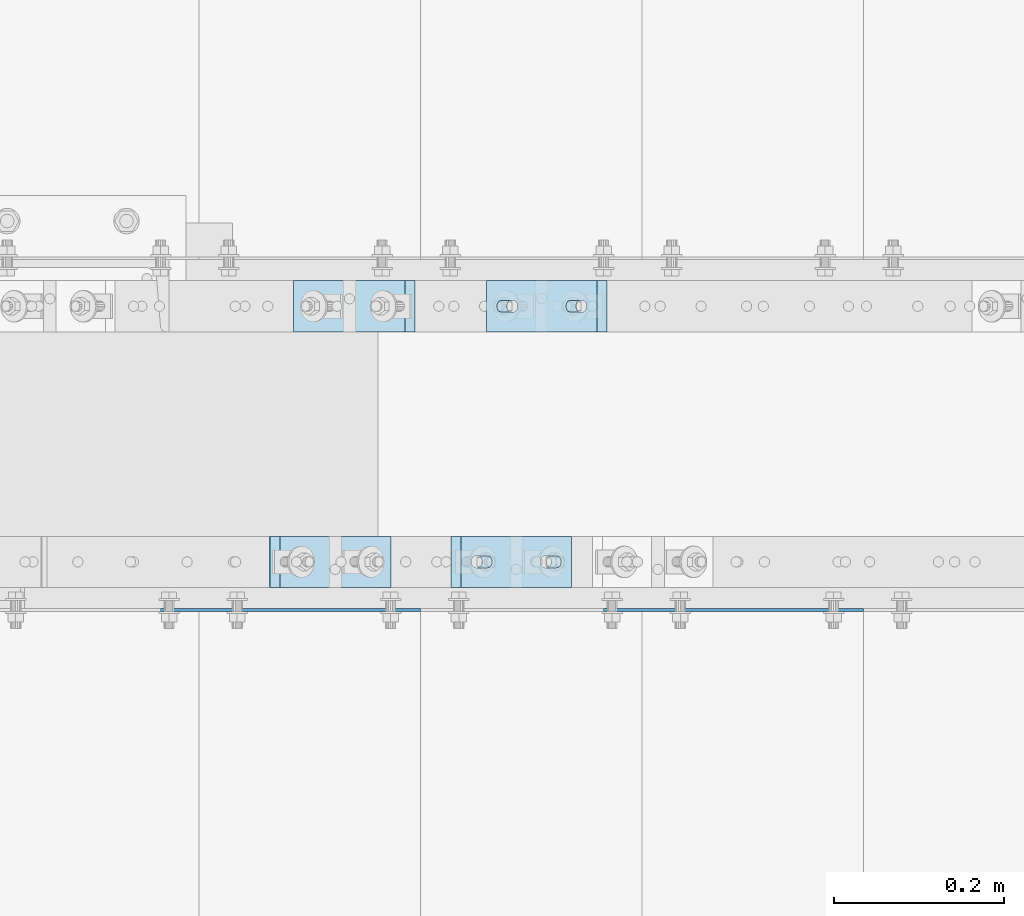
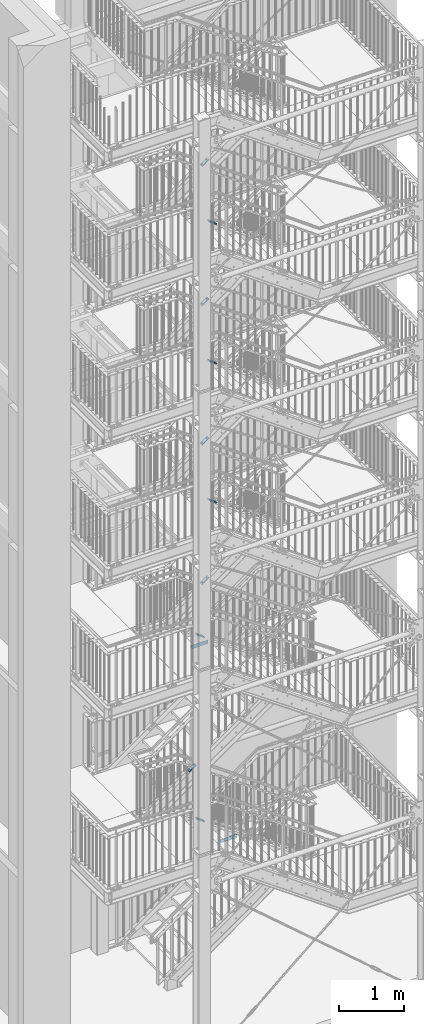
# One storey, part 175 of 831: 12 plates, 24 openings.
"""IFC2X3 building model written with IfcOpenShell, lengths in millimetres."""

from ifc_helpers import new_model, entity, si_unit, converted_unit, point, frame, frame_2d, origin, origin_with_axes, origin_2d_with_axis, place, context, project, spatial, polyline, circle_curve, line_curve, trimmed, segment, composite_curve, circle, outline, extrude, material, layer, layer_set, element, save


model = new_model("IFC2X3")

# Units and contexts
model_context = context("Model", 3, precision=1e-09, world=origin_with_axes())
ifc_project = project(units=[si_unit("LENGTHUNIT", "METRE", prefix="MILLI"), si_unit("AREAUNIT", "SQUARE_METRE"), si_unit("VOLUMEUNIT", "CUBIC_METRE"), converted_unit("PLANEANGLEUNIT", "DEGREE", entity("IfcPlaneAngleMeasure", 0.01745329), si_unit("PLANEANGLEUNIT", "RADIAN"), dimensions=[0, 0, 0, 0, 0, 0, 0])], contexts=[model_context])

# Site, building, storey
site_placement = place(None, origin_with_axes())
site = spatial("IfcSite", under=ifc_project, at=site_placement, Name="Site", CompositionType="ELEMENT")
building_placement = place(site_placement, origin_with_axes())
building = spatial("IfcBuilding", under=site, at=building_placement, Name="Struktur 1", CompositionType="ELEMENT")
storey_placement = place(building_placement, origin_with_axes())
storey = spatial("IfcBuildingStorey", under=building, at=storey_placement, Name="Default Storey", CompositionType="ELEMENT", Elevation=0.0)

# Plate, openings
ifc_material = material(Name="S235JR")
ifc_layer_1 = layer(ifc_material, 3.0)
ifc_layer_set_1 = layer_set([ifc_layer_1], Name="S235JR")
plate_1_placement = place(None, frame((6276.713402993, 5733.736971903, 3146.5789472), z_axis=(0.0, 1.0, 0.0), x_axis=(0.0, 0.0, -1.0)))
plate_1 = element("IfcPlate", 1, at=plate_1_placement, inside=storey, material=ifc_layer_set_1, Name="Grate_Step#31", ObjectType="Grate_Step#31", context=model_context, shape_type="SweptSolid", body=[
    extrude(outline(polyline([(0.0, 0.0), (70.0, 0.0), (70.0, 275.0), (40.0, 305.0), (0.0, 305.0), (0.0, 0.0)])), origin_with_axes(), (0.0, 0.0, 1.0), 3.0),
])
opening_1_placement = place(plate_1_placement, frame((55.0, 35.0, -0.5), z_axis=(0.0, 0.0, 1.0), x_axis=(0.0, 1.0, 0.0)))
element("IfcOpeningElement", 2, at=opening_1_placement, cuts=plate_1, ObjectType="Opening", context=model_context, shape_type="SweptSolid", body=[
    extrude(circle(Radius=7.001, at=origin_2d_with_axis()), origin(), (0.0, 0.0, 1.0), 4.0),
])
opening_2_placement = place(plate_1_placement, frame((55.0, 215.0, -0.5), z_axis=(0.0, 0.0, 1.0), x_axis=(0.0, 1.0, 0.0)))
element("IfcOpeningElement", 3, at=opening_2_placement, cuts=plate_1, ObjectType="Opening", context=model_context, shape_type="SweptSolid", body=[
    extrude(outline(composite_curve([segment(trimmed(line_curve((-9.5, -7.001), (1.0, 0.0), 19.0), [point((-9.5, -7.001))], [point((9.5, -7.001))], True, "CARTESIAN"), True, "CONTINUOUS"), segment(trimmed(circle_curve(frame_2d((9.5, 0.0), x_axis=(1.0, 0.0)), 7.001), [point((9.5, -7.001))], [point((9.5, 7.001))], True, "CARTESIAN"), True, "CONTINUOUS"), segment(trimmed(line_curve((9.5, 7.001), (-1.0, 0.0), 19.0), [point((9.5, 7.001))], [point((-9.5, 7.001))], True, "CARTESIAN"), True, "CONTINUOUS"), segment(trimmed(circle_curve(frame_2d((-9.5, 0.0), x_axis=(1.0, 0.0)), 7.001), [point((-9.5, 7.001))], [point((-9.5, -7.001))], True, "CARTESIAN"), True, "CONTINUOUS")], self_intersect=False)), origin(), (0.0, 0.0, 1.0), 4.0),
])

plate_2_placement = place(None, frame((5756.713402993, 5733.736971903, 6994.4210526), z_axis=(0.0, 1.0, 0.0), x_axis=(0.0, 0.0, -1.0)))
plate_2 = element("IfcPlate", 4, at=plate_2_placement, inside=storey, material=ifc_layer_set_1, Name="Grate_Step#45", ObjectType="Grate_Step#45", context=model_context, shape_type="SweptSolid", body=[
    extrude(outline(polyline([(0.0, 0.0), (70.0, 0.0), (70.0, 275.0), (40.0, 305.0), (0.0, 305.0), (0.0, 0.0)])), origin_with_axes(), (0.0, 0.0, 1.0), 3.0),
])
opening_3_placement = place(plate_2_placement, frame((55.0, 35.0, -0.5), z_axis=(0.0, 0.0, 1.0), x_axis=(0.0, 1.0, 0.0)))
element("IfcOpeningElement", 5, at=opening_3_placement, cuts=plate_2, ObjectType="Opening", context=model_context, shape_type="SweptSolid", body=[
    extrude(circle(Radius=7.001, at=origin_2d_with_axis()), origin(), (0.0, 0.0, 1.0), 4.0),
])
opening_4_placement = place(plate_2_placement, frame((55.0, 215.0, -0.5), z_axis=(0.0, 0.0, 1.0), x_axis=(0.0, 1.0, 0.0)))
element("IfcOpeningElement", 6, at=opening_4_placement, cuts=plate_2, ObjectType="Opening", context=model_context, shape_type="SweptSolid", body=[
    extrude(outline(composite_curve([segment(trimmed(line_curve((-9.5, -7.001), (1.0, 0.0), 19.0), [point((-9.5, -7.001))], [point((9.5, -7.001))], True, "CARTESIAN"), True, "CONTINUOUS"), segment(trimmed(circle_curve(frame_2d((9.5, 0.0), x_axis=(1.0, 0.0)), 7.001), [point((9.5, -7.001))], [point((9.5, 7.001))], True, "CARTESIAN"), True, "CONTINUOUS"), segment(trimmed(line_curve((9.5, 7.001), (-1.0, 0.0), 19.0), [point((9.5, 7.001))], [point((-9.5, 7.001))], True, "CARTESIAN"), True, "CONTINUOUS"), segment(trimmed(circle_curve(frame_2d((-9.5, 0.0), x_axis=(1.0, 0.0)), 7.001), [point((-9.5, 7.001))], [point((-9.5, -7.001))], True, "CARTESIAN"), True, "CONTINUOUS")], self_intersect=False)), origin(), (0.0, 0.0, 1.0), 4.0),
])

ifc_layer_2 = layer(ifc_material, 20.0)
ifc_layer_set_2 = layer_set([ifc_layer_2], Name="S235JR")
plate_3_placement = place(None, frame((5750.397948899, 6121.736971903, 4430.928426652), z_axis=(-0.575128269, 0.0, 0.818063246), x_axis=(-0.818063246, 0.0, -0.575128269)))
plate_3 = element("IfcPlate", 7, at=plate_3_placement, inside=storey, material=ifc_layer_set_2, Name="Plate#501", ObjectType="Plate#501", context=model_context, shape_type="SweptSolid", body=[
    extrude(outline(polyline([(0.0, 0.0), (160.0, 0.0), (160.0, 60.0), (0.0, 60.0), (0.0, 0.0)])), origin_with_axes(), (0.0, 0.0, 1.0), 20.0),
])
opening_5_placement = place(plate_3_placement, frame((38.0, 37.001, 20.5), z_axis=(0.0, 0.0, 1.0), x_axis=(-1.0, 0.0, 0.0)))
element("IfcOpeningElement", 8, at=opening_5_placement, cuts=plate_3, ObjectType="Opening", context=model_context, shape_type="SweptSolid", body=[
    extrude(outline(composite_curve([segment(trimmed(line_curve((0.0, 0.0), (1.0, 0.0), 16.0), [point((0.0, 0.0))], [point((16.0, 0.0))], True, "CARTESIAN"), True, "CONTINUOUS"), segment(trimmed(circle_curve(frame_2d((16.0, 7.001), x_axis=(1.0, 0.0)), 7.001), [point((16.0, 0.0))], [point((16.0, 14.002))], True, "CARTESIAN"), True, "CONTINUOUS"), segment(trimmed(line_curve((16.0, 14.002), (-1.0, 0.0), 16.0), [point((16.0, 14.002))], [point((0.0, 14.002))], True, "CARTESIAN"), True, "CONTINUOUS"), segment(trimmed(circle_curve(frame_2d((0.0, 7.001), x_axis=(1.0, 0.0)), 7.001), [point((0.0, 14.002))], [point((0.0, 0.0))], True, "CARTESIAN"), True, "CONTINUOUS")], self_intersect=False)), origin(), (0.0, 0.0, -1.0), 21.0),
])
opening_6_placement = place(plate_3_placement, frame((138.0, 37.001, 20.5), z_axis=(0.0, 0.0, 1.0), x_axis=(-1.0, 0.0, 0.0)))
element("IfcOpeningElement", 9, at=opening_6_placement, cuts=plate_3, ObjectType="Opening", context=model_context, shape_type="SweptSolid", body=[
    extrude(outline(composite_curve([segment(trimmed(line_curve((0.0, 0.0), (1.0, 0.0), 16.0), [point((0.0, 0.0))], [point((16.0, 0.0))], True, "CARTESIAN"), True, "CONTINUOUS"), segment(trimmed(circle_curve(frame_2d((16.0, 7.001), x_axis=(1.0, 0.0)), 7.001), [point((16.0, 0.0))], [point((16.0, 14.002))], True, "CARTESIAN"), True, "CONTINUOUS"), segment(trimmed(line_curve((16.0, 14.002), (-1.0, 0.0), 16.0), [point((16.0, 14.002))], [point((0.0, 14.002))], True, "CARTESIAN"), True, "CONTINUOUS"), segment(trimmed(circle_curve(frame_2d((0.0, 7.001), x_axis=(1.0, 0.0)), 7.001), [point((0.0, 14.002))], [point((0.0, 0.0))], True, "CARTESIAN"), True, "CONTINUOUS")], self_intersect=False)), origin(), (0.0, 0.0, -1.0), 21.0),
])

plate_4_placement = place(None, frame((5975.736519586, 6121.736971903, 7894.370561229), z_axis=(-0.585945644, 0.0, 0.810350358), x_axis=(-0.810350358, 0.0, -0.585945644)))
plate_4 = element("IfcPlate", 10, at=plate_4_placement, inside=storey, material=ifc_layer_set_2, Name="Plate#501", ObjectType="Plate#501", context=model_context, shape_type="SweptSolid", body=[
    extrude(outline(polyline([(0.0, 0.0), (160.0, 0.0), (160.0, 60.0), (0.0, 60.0), (0.0, 0.0)])), origin_with_axes(), (0.0, 0.0, 1.0), 20.0),
])
opening_7_placement = place(plate_4_placement, frame((38.0, 37.001, 20.5), z_axis=(0.0, 0.0, 1.0), x_axis=(-1.0, 0.0, 0.0)))
element("IfcOpeningElement", 11, at=opening_7_placement, cuts=plate_4, ObjectType="Opening", context=model_context, shape_type="SweptSolid", body=[
    extrude(outline(composite_curve([segment(trimmed(line_curve((0.0, 0.0), (1.0, 0.0), 16.0), [point((0.0, 0.0))], [point((16.0, 0.0))], True, "CARTESIAN"), True, "CONTINUOUS"), segment(trimmed(circle_curve(frame_2d((16.0, 7.001), x_axis=(1.0, 0.0)), 7.001), [point((16.0, 0.0))], [point((16.0, 14.002))], True, "CARTESIAN"), True, "CONTINUOUS"), segment(trimmed(line_curve((16.0, 14.002), (-1.0, 0.0), 16.0), [point((16.0, 14.002))], [point((0.0, 14.002))], True, "CARTESIAN"), True, "CONTINUOUS"), segment(trimmed(circle_curve(frame_2d((0.0, 7.001), x_axis=(1.0, 0.0)), 7.001), [point((0.0, 14.002))], [point((0.0, 0.0))], True, "CARTESIAN"), True, "CONTINUOUS")], self_intersect=False)), origin(), (0.0, 0.0, -1.0), 21.0),
])
opening_8_placement = place(plate_4_placement, frame((138.0, 37.001, 20.5), z_axis=(0.0, 0.0, 1.0), x_axis=(-1.0, 0.0, 0.0)))
element("IfcOpeningElement", 12, at=opening_8_placement, cuts=plate_4, ObjectType="Opening", context=model_context, shape_type="SweptSolid", body=[
    extrude(outline(composite_curve([segment(trimmed(line_curve((0.0, 0.0), (1.0, 0.0), 16.0), [point((0.0, 0.0))], [point((16.0, 0.0))], True, "CARTESIAN"), True, "CONTINUOUS"), segment(trimmed(circle_curve(frame_2d((16.0, 7.001), x_axis=(1.0, 0.0)), 7.001), [point((16.0, 0.0))], [point((16.0, 14.002))], True, "CARTESIAN"), True, "CONTINUOUS"), segment(trimmed(line_curve((16.0, 14.002), (-1.0, 0.0), 16.0), [point((16.0, 14.002))], [point((0.0, 14.002))], True, "CARTESIAN"), True, "CONTINUOUS"), segment(trimmed(circle_curve(frame_2d((0.0, 7.001), x_axis=(1.0, 0.0)), 7.001), [point((0.0, 14.002))], [point((0.0, 0.0))], True, "CARTESIAN"), True, "CONTINUOUS")], self_intersect=False)), origin(), (0.0, 0.0, -1.0), 21.0),
])

plate_5_placement = place(None, frame((5975.781539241, 6121.736971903, 10525.387910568), z_axis=(-0.585213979, 0.0, 0.810878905), x_axis=(-0.810878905, 0.0, -0.585213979)))
plate_5 = element("IfcPlate", 13, at=plate_5_placement, inside=storey, material=ifc_layer_set_2, Name="Plate#501", ObjectType="Plate#501", context=model_context, shape_type="SweptSolid", body=[
    extrude(outline(polyline([(0.0, 0.0), (160.0, 0.0), (160.0, 60.0), (0.0, 60.0), (0.0, 0.0)])), origin_with_axes(), (0.0, 0.0, 1.0), 20.0),
])
opening_9_placement = place(plate_5_placement, frame((38.0, 37.001, 20.5), z_axis=(0.0, 0.0, 1.0), x_axis=(-1.0, 0.0, 0.0)))
element("IfcOpeningElement", 14, at=opening_9_placement, cuts=plate_5, ObjectType="Opening", context=model_context, shape_type="SweptSolid", body=[
    extrude(outline(composite_curve([segment(trimmed(line_curve((0.0, 0.0), (1.0, 0.0), 16.0), [point((0.0, 0.0))], [point((16.0, 0.0))], True, "CARTESIAN"), True, "CONTINUOUS"), segment(trimmed(circle_curve(frame_2d((16.0, 7.001), x_axis=(1.0, 0.0)), 7.001), [point((16.0, 0.0))], [point((16.0, 14.002))], True, "CARTESIAN"), True, "CONTINUOUS"), segment(trimmed(line_curve((16.0, 14.002), (-1.0, 0.0), 16.0), [point((16.0, 14.002))], [point((0.0, 14.002))], True, "CARTESIAN"), True, "CONTINUOUS"), segment(trimmed(circle_curve(frame_2d((0.0, 7.001), x_axis=(1.0, 0.0)), 7.001), [point((0.0, 14.002))], [point((0.0, 0.0))], True, "CARTESIAN"), True, "CONTINUOUS")], self_intersect=False)), origin(), (0.0, 0.0, -1.0), 21.0),
])
opening_10_placement = place(plate_5_placement, frame((138.0, 37.001, 20.5), z_axis=(0.0, 0.0, 1.0), x_axis=(-1.0, 0.0, 0.0)))
element("IfcOpeningElement", 15, at=opening_10_placement, cuts=plate_5, ObjectType="Opening", context=model_context, shape_type="SweptSolid", body=[
    extrude(outline(composite_curve([segment(trimmed(line_curve((0.0, 0.0), (1.0, 0.0), 16.0), [point((0.0, 0.0))], [point((16.0, 0.0))], True, "CARTESIAN"), True, "CONTINUOUS"), segment(trimmed(circle_curve(frame_2d((16.0, 7.001), x_axis=(1.0, 0.0)), 7.001), [point((16.0, 0.0))], [point((16.0, 14.002))], True, "CARTESIAN"), True, "CONTINUOUS"), segment(trimmed(line_curve((16.0, 14.002), (-1.0, 0.0), 16.0), [point((16.0, 14.002))], [point((0.0, 14.002))], True, "CARTESIAN"), True, "CONTINUOUS"), segment(trimmed(circle_curve(frame_2d((0.0, 7.001), x_axis=(1.0, 0.0)), 7.001), [point((0.0, 14.002))], [point((0.0, 0.0))], True, "CARTESIAN"), True, "CONTINUOUS")], self_intersect=False)), origin(), (0.0, 0.0, -1.0), 21.0),
])

plate_6_placement = place(None, frame((5975.709509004, 6121.736971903, 13153.960093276), z_axis=(-0.586383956, 0.0, 0.810033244), x_axis=(-0.810033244, 0.0, -0.586383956)))
plate_6 = element("IfcPlate", 16, at=plate_6_placement, inside=storey, material=ifc_layer_set_2, Name="Plate#501", ObjectType="Plate#501", context=model_context, shape_type="SweptSolid", body=[
    extrude(outline(polyline([(0.0, 0.0), (160.0, 0.0), (160.0, 60.0), (0.0, 60.0), (0.0, 0.0)])), origin_with_axes(), (0.0, 0.0, 1.0), 20.0),
])
opening_11_placement = place(plate_6_placement, frame((38.0, 37.001, 20.5), z_axis=(0.0, 0.0, 1.0), x_axis=(-1.0, 0.0, 0.0)))
element("IfcOpeningElement", 17, at=opening_11_placement, cuts=plate_6, ObjectType="Opening", context=model_context, shape_type="SweptSolid", body=[
    extrude(outline(composite_curve([segment(trimmed(line_curve((0.0, 0.0), (1.0, 0.0), 16.0), [point((0.0, 0.0))], [point((16.0, 0.0))], True, "CARTESIAN"), True, "CONTINUOUS"), segment(trimmed(circle_curve(frame_2d((16.0, 7.001), x_axis=(1.0, 0.0)), 7.001), [point((16.0, 0.0))], [point((16.0, 14.002))], True, "CARTESIAN"), True, "CONTINUOUS"), segment(trimmed(line_curve((16.0, 14.002), (-1.0, 0.0), 16.0), [point((16.0, 14.002))], [point((0.0, 14.002))], True, "CARTESIAN"), True, "CONTINUOUS"), segment(trimmed(circle_curve(frame_2d((0.0, 7.001), x_axis=(1.0, 0.0)), 7.001), [point((0.0, 14.002))], [point((0.0, 0.0))], True, "CARTESIAN"), True, "CONTINUOUS")], self_intersect=False)), origin(), (0.0, 0.0, -1.0), 21.0),
])
opening_12_placement = place(plate_6_placement, frame((138.0, 37.001, 20.5), z_axis=(0.0, 0.0, 1.0), x_axis=(-1.0, 0.0, 0.0)))
element("IfcOpeningElement", 18, at=opening_12_placement, cuts=plate_6, ObjectType="Opening", context=model_context, shape_type="SweptSolid", body=[
    extrude(outline(composite_curve([segment(trimmed(line_curve((0.0, 0.0), (1.0, 0.0), 16.0), [point((0.0, 0.0))], [point((16.0, 0.0))], True, "CARTESIAN"), True, "CONTINUOUS"), segment(trimmed(circle_curve(frame_2d((16.0, 7.001), x_axis=(1.0, 0.0)), 7.001), [point((16.0, 0.0))], [point((16.0, 14.002))], True, "CARTESIAN"), True, "CONTINUOUS"), segment(trimmed(line_curve((16.0, 14.002), (-1.0, 0.0), 16.0), [point((16.0, 14.002))], [point((0.0, 14.002))], True, "CARTESIAN"), True, "CONTINUOUS"), segment(trimmed(circle_curve(frame_2d((0.0, 7.001), x_axis=(1.0, 0.0)), 7.001), [point((0.0, 14.002))], [point((0.0, 0.0))], True, "CARTESIAN"), True, "CONTINUOUS")], self_intersect=False)), origin(), (0.0, 0.0, -1.0), 21.0),
])

plate_7_placement = place(None, frame((5975.844570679, 6121.736971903, 15786.011994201), z_axis=(-0.584187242, 0.0, 0.811618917), x_axis=(-0.811618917, 0.0, -0.584187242)))
plate_7 = element("IfcPlate", 19, at=plate_7_placement, inside=storey, material=ifc_layer_set_2, Name="Plate#501", ObjectType="Plate#501", context=model_context, shape_type="SweptSolid", body=[
    extrude(outline(polyline([(0.0, 0.0), (160.0, 0.0), (160.0, 60.0), (0.0, 60.0), (0.0, 0.0)])), origin_with_axes(), (0.0, 0.0, 1.0), 20.0),
])
opening_13_placement = place(plate_7_placement, frame((38.0, 37.001, 20.5), z_axis=(0.0, 0.0, 1.0), x_axis=(-1.0, 0.0, 0.0)))
element("IfcOpeningElement", 20, at=opening_13_placement, cuts=plate_7, ObjectType="Opening", context=model_context, shape_type="SweptSolid", body=[
    extrude(outline(composite_curve([segment(trimmed(line_curve((0.0, 0.0), (1.0, 0.0), 16.0), [point((0.0, 0.0))], [point((16.0, 0.0))], True, "CARTESIAN"), True, "CONTINUOUS"), segment(trimmed(circle_curve(frame_2d((16.0, 7.001), x_axis=(1.0, 0.0)), 7.001), [point((16.0, 0.0))], [point((16.0, 14.002))], True, "CARTESIAN"), True, "CONTINUOUS"), segment(trimmed(line_curve((16.0, 14.002), (-1.0, 0.0), 16.0), [point((16.0, 14.002))], [point((0.0, 14.002))], True, "CARTESIAN"), True, "CONTINUOUS"), segment(trimmed(circle_curve(frame_2d((0.0, 7.001), x_axis=(1.0, 0.0)), 7.001), [point((0.0, 14.002))], [point((0.0, 0.0))], True, "CARTESIAN"), True, "CONTINUOUS")], self_intersect=False)), origin(), (0.0, 0.0, -1.0), 21.0),
])
opening_14_placement = place(plate_7_placement, frame((138.0, 37.001, 20.5), z_axis=(0.0, 0.0, 1.0), x_axis=(-1.0, 0.0, 0.0)))
element("IfcOpeningElement", 21, at=opening_14_placement, cuts=plate_7, ObjectType="Opening", context=model_context, shape_type="SweptSolid", body=[
    extrude(outline(composite_curve([segment(trimmed(line_curve((0.0, 0.0), (1.0, 0.0), 16.0), [point((0.0, 0.0))], [point((16.0, 0.0))], True, "CARTESIAN"), True, "CONTINUOUS"), segment(trimmed(circle_curve(frame_2d((16.0, 7.001), x_axis=(1.0, 0.0)), 7.001), [point((16.0, 0.0))], [point((16.0, 14.002))], True, "CARTESIAN"), True, "CONTINUOUS"), segment(trimmed(line_curve((16.0, 14.002), (-1.0, 0.0), 16.0), [point((16.0, 14.002))], [point((0.0, 14.002))], True, "CARTESIAN"), True, "CONTINUOUS"), segment(trimmed(circle_curve(frame_2d((0.0, 7.001), x_axis=(1.0, 0.0)), 7.001), [point((0.0, 14.002))], [point((0.0, 0.0))], True, "CARTESIAN"), True, "CONTINUOUS")], self_intersect=False)), origin(), (0.0, 0.0, -1.0), 21.0),
])

plate_8_placement = place(None, frame((5580.039038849, 5761.736971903, 3642.571606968), z_axis=(0.579973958, 0.0, 0.814635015), x_axis=(0.814635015, 0.0, -0.579973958)))
plate_8 = element("IfcPlate", 22, at=plate_8_placement, inside=storey, material=ifc_layer_set_2, Name="Plate#502", ObjectType="Plate#502", context=model_context, shape_type="SweptSolid", body=[
    extrude(outline(polyline([(0.0, 0.0), (160.0, 0.0), (160.0, 60.0), (0.0, 60.0), (0.0, 0.0)])), origin_with_axes(), (0.0, 0.0, 1.0), 20.0),
])
opening_15_placement = place(plate_8_placement, frame((38.0, 37.001, 20.5), z_axis=(0.0, 0.0, 1.0), x_axis=(-1.0, 0.0, 0.0)))
element("IfcOpeningElement", 23, at=opening_15_placement, cuts=plate_8, ObjectType="Opening", context=model_context, shape_type="SweptSolid", body=[
    extrude(outline(composite_curve([segment(trimmed(line_curve((0.0, 0.0), (1.0, 0.0), 16.0), [point((0.0, 0.0))], [point((16.0, 0.0))], True, "CARTESIAN"), True, "CONTINUOUS"), segment(trimmed(circle_curve(frame_2d((16.0, 7.001), x_axis=(1.0, 0.0)), 7.001), [point((16.0, 0.0))], [point((16.0, 14.002))], True, "CARTESIAN"), True, "CONTINUOUS"), segment(trimmed(line_curve((16.0, 14.002), (-1.0, 0.0), 16.0), [point((16.0, 14.002))], [point((0.0, 14.002))], True, "CARTESIAN"), True, "CONTINUOUS"), segment(trimmed(circle_curve(frame_2d((0.0, 7.001), x_axis=(1.0, 0.0)), 7.001), [point((0.0, 14.002))], [point((0.0, 0.0))], True, "CARTESIAN"), True, "CONTINUOUS")], self_intersect=False)), origin(), (0.0, 0.0, -1.0), 21.0),
])
opening_16_placement = place(plate_8_placement, frame((138.0, 37.001, 20.5), z_axis=(0.0, 0.0, 1.0), x_axis=(-1.0, 0.0, 0.0)))
element("IfcOpeningElement", 24, at=opening_16_placement, cuts=plate_8, ObjectType="Opening", context=model_context, shape_type="SweptSolid", body=[
    extrude(outline(composite_curve([segment(trimmed(line_curve((0.0, 0.0), (1.0, 0.0), 16.0), [point((0.0, 0.0))], [point((16.0, 0.0))], True, "CARTESIAN"), True, "CONTINUOUS"), segment(trimmed(circle_curve(frame_2d((16.0, 7.001), x_axis=(1.0, 0.0)), 7.001), [point((16.0, 0.0))], [point((16.0, 14.002))], True, "CARTESIAN"), True, "CONTINUOUS"), segment(trimmed(line_curve((16.0, 14.002), (-1.0, 0.0), 16.0), [point((16.0, 14.002))], [point((0.0, 14.002))], True, "CARTESIAN"), True, "CONTINUOUS"), segment(trimmed(circle_curve(frame_2d((0.0, 7.001), x_axis=(1.0, 0.0)), 7.001), [point((0.0, 14.002))], [point((0.0, 0.0))], True, "CARTESIAN"), True, "CONTINUOUS")], self_intersect=False)), origin(), (0.0, 0.0, -1.0), 21.0),
])

plate_9_placement = place(None, frame((5579.69602376, 5761.736971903, 7118.870720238), z_axis=(0.57512827, 0.0, 0.818063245), x_axis=(0.818063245, 0.0, -0.57512827)))
plate_9 = element("IfcPlate", 25, at=plate_9_placement, inside=storey, material=ifc_layer_set_2, Name="Plate#502", ObjectType="Plate#502", context=model_context, shape_type="SweptSolid", body=[
    extrude(outline(polyline([(0.0, 0.0), (160.0, 0.0), (160.0, 60.0), (0.0, 60.0), (0.0, 0.0)])), origin_with_axes(), (0.0, 0.0, 1.0), 20.0),
])
opening_17_placement = place(plate_9_placement, frame((38.0, 37.001, 20.5), z_axis=(0.0, 0.0, 1.0), x_axis=(-1.0, 0.0, 0.0)))
element("IfcOpeningElement", 26, at=opening_17_placement, cuts=plate_9, ObjectType="Opening", context=model_context, shape_type="SweptSolid", body=[
    extrude(outline(composite_curve([segment(trimmed(line_curve((0.0, 0.0), (1.0, 0.0), 16.0), [point((0.0, 0.0))], [point((16.0, 0.0))], True, "CARTESIAN"), True, "CONTINUOUS"), segment(trimmed(circle_curve(frame_2d((16.0, 7.001), x_axis=(1.0, 0.0)), 7.001), [point((16.0, 0.0))], [point((16.0, 14.002))], True, "CARTESIAN"), True, "CONTINUOUS"), segment(trimmed(line_curve((16.0, 14.002), (-1.0, 0.0), 16.0), [point((16.0, 14.002))], [point((0.0, 14.002))], True, "CARTESIAN"), True, "CONTINUOUS"), segment(trimmed(circle_curve(frame_2d((0.0, 7.001), x_axis=(1.0, 0.0)), 7.001), [point((0.0, 14.002))], [point((0.0, 0.0))], True, "CARTESIAN"), True, "CONTINUOUS")], self_intersect=False)), origin(), (0.0, 0.0, -1.0), 21.0),
])
opening_18_placement = place(plate_9_placement, frame((138.0, 37.001, 20.5), z_axis=(0.0, 0.0, 1.0), x_axis=(-1.0, 0.0, 0.0)))
element("IfcOpeningElement", 27, at=opening_18_placement, cuts=plate_9, ObjectType="Opening", context=model_context, shape_type="SweptSolid", body=[
    extrude(outline(composite_curve([segment(trimmed(line_curve((0.0, 0.0), (1.0, 0.0), 16.0), [point((0.0, 0.0))], [point((16.0, 0.0))], True, "CARTESIAN"), True, "CONTINUOUS"), segment(trimmed(circle_curve(frame_2d((16.0, 7.001), x_axis=(1.0, 0.0)), 7.001), [point((16.0, 0.0))], [point((16.0, 14.002))], True, "CARTESIAN"), True, "CONTINUOUS"), segment(trimmed(line_curve((16.0, 14.002), (-1.0, 0.0), 16.0), [point((16.0, 14.002))], [point((0.0, 14.002))], True, "CARTESIAN"), True, "CONTINUOUS"), segment(trimmed(circle_curve(frame_2d((0.0, 7.001), x_axis=(1.0, 0.0)), 7.001), [point((0.0, 14.002))], [point((0.0, 0.0))], True, "CARTESIAN"), True, "CONTINUOUS")], self_intersect=False)), origin(), (0.0, 0.0, -1.0), 21.0),
])

plate_10_placement = place(None, frame((5792.6912864, 5761.736971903, 9589.985222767), z_axis=(0.585945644, 0.0, 0.810350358), x_axis=(0.810350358, 0.0, -0.585945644)))
plate_10 = element("IfcPlate", 28, at=plate_10_placement, inside=storey, material=ifc_layer_set_2, Name="Plate#501", ObjectType="Plate#501", context=model_context, shape_type="SweptSolid", body=[
    extrude(outline(polyline([(0.0, 0.0), (160.0, 0.0), (160.0, 60.0), (0.0, 60.0), (0.0, 0.0)])), origin_with_axes(), (0.0, 0.0, 1.0), 20.0),
])
opening_19_placement = place(plate_10_placement, frame((38.0, 37.001, 20.5), z_axis=(0.0, 0.0, 1.0), x_axis=(-1.0, 0.0, 0.0)))
element("IfcOpeningElement", 29, at=opening_19_placement, cuts=plate_10, ObjectType="Opening", context=model_context, shape_type="SweptSolid", body=[
    extrude(outline(composite_curve([segment(trimmed(line_curve((0.0, 0.0), (1.0, 0.0), 16.0), [point((0.0, 0.0))], [point((16.0, 0.0))], True, "CARTESIAN"), True, "CONTINUOUS"), segment(trimmed(circle_curve(frame_2d((16.0, 7.001), x_axis=(1.0, 0.0)), 7.001), [point((16.0, 0.0))], [point((16.0, 14.002))], True, "CARTESIAN"), True, "CONTINUOUS"), segment(trimmed(line_curve((16.0, 14.002), (-1.0, 0.0), 16.0), [point((16.0, 14.002))], [point((0.0, 14.002))], True, "CARTESIAN"), True, "CONTINUOUS"), segment(trimmed(circle_curve(frame_2d((0.0, 7.001), x_axis=(1.0, 0.0)), 7.001), [point((0.0, 14.002))], [point((0.0, 0.0))], True, "CARTESIAN"), True, "CONTINUOUS")], self_intersect=False)), origin(), (0.0, 0.0, -1.0), 21.0),
])
opening_20_placement = place(plate_10_placement, frame((138.0, 37.001, 20.5), z_axis=(0.0, 0.0, 1.0), x_axis=(-1.0, 0.0, 0.0)))
element("IfcOpeningElement", 30, at=opening_20_placement, cuts=plate_10, ObjectType="Opening", context=model_context, shape_type="SweptSolid", body=[
    extrude(outline(composite_curve([segment(trimmed(line_curve((0.0, 0.0), (1.0, 0.0), 16.0), [point((0.0, 0.0))], [point((16.0, 0.0))], True, "CARTESIAN"), True, "CONTINUOUS"), segment(trimmed(circle_curve(frame_2d((16.0, 7.001), x_axis=(1.0, 0.0)), 7.001), [point((16.0, 0.0))], [point((16.0, 14.002))], True, "CARTESIAN"), True, "CONTINUOUS"), segment(trimmed(line_curve((16.0, 14.002), (-1.0, 0.0), 16.0), [point((16.0, 14.002))], [point((0.0, 14.002))], True, "CARTESIAN"), True, "CONTINUOUS"), segment(trimmed(circle_curve(frame_2d((0.0, 7.001), x_axis=(1.0, 0.0)), 7.001), [point((0.0, 14.002))], [point((0.0, 0.0))], True, "CARTESIAN"), True, "CONTINUOUS")], self_intersect=False)), origin(), (0.0, 0.0, -1.0), 21.0),
])

plate_11_placement = place(None, frame((5792.646266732, 5761.736971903, 12217.781419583), z_axis=(0.585213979, 0.0, 0.810878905), x_axis=(0.810878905, 0.0, -0.585213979)))
plate_11 = element("IfcPlate", 31, at=plate_11_placement, inside=storey, material=ifc_layer_set_2, Name="Plate#501", ObjectType="Plate#501", context=model_context, shape_type="SweptSolid", body=[
    extrude(outline(polyline([(0.0, 0.0), (160.0, 0.0), (160.0, 60.0), (0.0, 60.0), (0.0, 0.0)])), origin_with_axes(), (0.0, 0.0, 1.0), 20.0),
])
opening_21_placement = place(plate_11_placement, frame((38.0, 37.001, 20.5), z_axis=(0.0, 0.0, 1.0), x_axis=(-1.0, 0.0, 0.0)))
element("IfcOpeningElement", 32, at=opening_21_placement, cuts=plate_11, ObjectType="Opening", context=model_context, shape_type="SweptSolid", body=[
    extrude(outline(composite_curve([segment(trimmed(line_curve((0.0, 0.0), (1.0, 0.0), 16.0), [point((0.0, 0.0))], [point((16.0, 0.0))], True, "CARTESIAN"), True, "CONTINUOUS"), segment(trimmed(circle_curve(frame_2d((16.0, 7.001), x_axis=(1.0, 0.0)), 7.001), [point((16.0, 0.0))], [point((16.0, 14.002))], True, "CARTESIAN"), True, "CONTINUOUS"), segment(trimmed(line_curve((16.0, 14.002), (-1.0, 0.0), 16.0), [point((16.0, 14.002))], [point((0.0, 14.002))], True, "CARTESIAN"), True, "CONTINUOUS"), segment(trimmed(circle_curve(frame_2d((0.0, 7.001), x_axis=(1.0, 0.0)), 7.001), [point((0.0, 14.002))], [point((0.0, 0.0))], True, "CARTESIAN"), True, "CONTINUOUS")], self_intersect=False)), origin(), (0.0, 0.0, -1.0), 21.0),
])
opening_22_placement = place(plate_11_placement, frame((138.0, 37.001, 20.5), z_axis=(0.0, 0.0, 1.0), x_axis=(-1.0, 0.0, 0.0)))
element("IfcOpeningElement", 33, at=opening_22_placement, cuts=plate_11, ObjectType="Opening", context=model_context, shape_type="SweptSolid", body=[
    extrude(outline(composite_curve([segment(trimmed(line_curve((0.0, 0.0), (1.0, 0.0), 16.0), [point((0.0, 0.0))], [point((16.0, 0.0))], True, "CARTESIAN"), True, "CONTINUOUS"), segment(trimmed(circle_curve(frame_2d((16.0, 7.001), x_axis=(1.0, 0.0)), 7.001), [point((16.0, 0.0))], [point((16.0, 14.002))], True, "CARTESIAN"), True, "CONTINUOUS"), segment(trimmed(line_curve((16.0, 14.002), (-1.0, 0.0), 16.0), [point((16.0, 14.002))], [point((0.0, 14.002))], True, "CARTESIAN"), True, "CONTINUOUS"), segment(trimmed(circle_curve(frame_2d((0.0, 7.001), x_axis=(1.0, 0.0)), 7.001), [point((0.0, 14.002))], [point((0.0, 0.0))], True, "CARTESIAN"), True, "CONTINUOUS")], self_intersect=False)), origin(), (0.0, 0.0, -1.0), 21.0),
])

plate_12_placement = place(None, frame((5792.718296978, 5761.736971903, 14851.50744628), z_axis=(0.586383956, 0.0, 0.810033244), x_axis=(0.810033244, 0.0, -0.586383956)))
plate_12 = element("IfcPlate", 34, at=plate_12_placement, inside=storey, material=ifc_layer_set_2, Name="Plate#501", ObjectType="Plate#501", context=model_context, shape_type="SweptSolid", body=[
    extrude(outline(polyline([(0.0, 0.0), (160.0, 0.0), (160.0, 60.0), (0.0, 60.0), (0.0, 0.0)])), origin_with_axes(), (0.0, 0.0, 1.0), 20.0),
])
opening_23_placement = place(plate_12_placement, frame((38.0, 37.001, 20.5), z_axis=(0.0, 0.0, 1.0), x_axis=(-1.0, 0.0, 0.0)))
element("IfcOpeningElement", 35, at=opening_23_placement, cuts=plate_12, ObjectType="Opening", context=model_context, shape_type="SweptSolid", body=[
    extrude(outline(composite_curve([segment(trimmed(line_curve((0.0, 0.0), (1.0, 0.0), 16.0), [point((0.0, 0.0))], [point((16.0, 0.0))], True, "CARTESIAN"), True, "CONTINUOUS"), segment(trimmed(circle_curve(frame_2d((16.0, 7.001), x_axis=(1.0, 0.0)), 7.001), [point((16.0, 0.0))], [point((16.0, 14.002))], True, "CARTESIAN"), True, "CONTINUOUS"), segment(trimmed(line_curve((16.0, 14.002), (-1.0, 0.0), 16.0), [point((16.0, 14.002))], [point((0.0, 14.002))], True, "CARTESIAN"), True, "CONTINUOUS"), segment(trimmed(circle_curve(frame_2d((0.0, 7.001), x_axis=(1.0, 0.0)), 7.001), [point((0.0, 14.002))], [point((0.0, 0.0))], True, "CARTESIAN"), True, "CONTINUOUS")], self_intersect=False)), origin(), (0.0, 0.0, -1.0), 21.0),
])
opening_24_placement = place(plate_12_placement, frame((138.0, 37.001, 20.5), z_axis=(0.0, 0.0, 1.0), x_axis=(-1.0, 0.0, 0.0)))
element("IfcOpeningElement", 36, at=opening_24_placement, cuts=plate_12, ObjectType="Opening", context=model_context, shape_type="SweptSolid", body=[
    extrude(outline(composite_curve([segment(trimmed(line_curve((0.0, 0.0), (1.0, 0.0), 16.0), [point((0.0, 0.0))], [point((16.0, 0.0))], True, "CARTESIAN"), True, "CONTINUOUS"), segment(trimmed(circle_curve(frame_2d((16.0, 7.001), x_axis=(1.0, 0.0)), 7.001), [point((16.0, 0.0))], [point((16.0, 14.002))], True, "CARTESIAN"), True, "CONTINUOUS"), segment(trimmed(line_curve((16.0, 14.002), (-1.0, 0.0), 16.0), [point((16.0, 14.002))], [point((0.0, 14.002))], True, "CARTESIAN"), True, "CONTINUOUS"), segment(trimmed(circle_curve(frame_2d((0.0, 7.001), x_axis=(1.0, 0.0)), 7.001), [point((0.0, 14.002))], [point((0.0, 0.0))], True, "CARTESIAN"), True, "CONTINUOUS")], self_intersect=False)), origin(), (0.0, 0.0, -1.0), 21.0),
])

save(model, "model.ifc")
